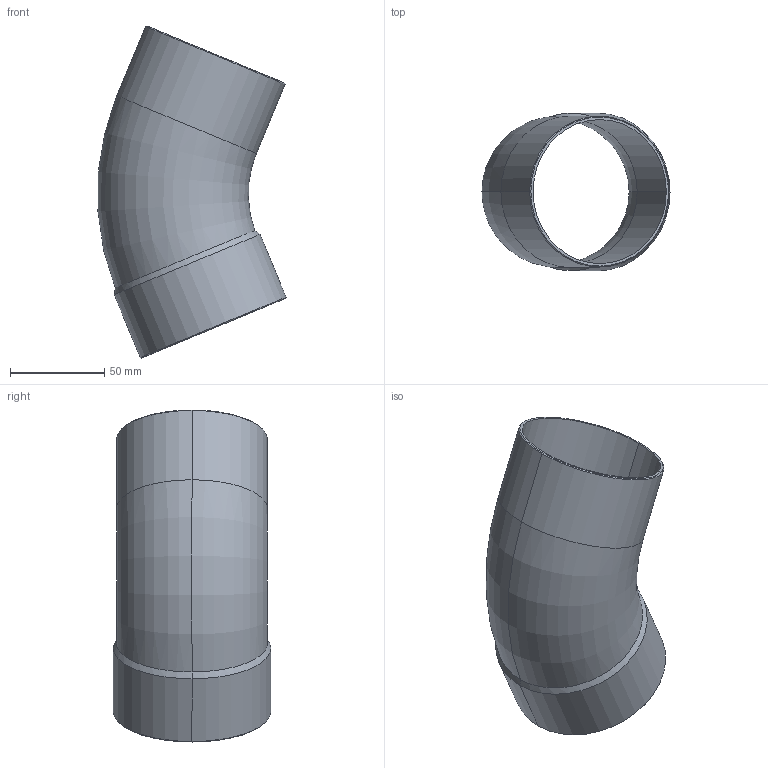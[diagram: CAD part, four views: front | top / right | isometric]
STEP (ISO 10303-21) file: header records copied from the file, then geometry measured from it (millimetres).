
FILE_DESCRIPTION((''),'2;1');
FILE_NAME('P:\Bouwmaten\z-maattekeningen 3D\5000\5040\1504080.stp','2005-10-12T13:36:14',('Kris'),(''),'Autodesk Inventor 8','Autodesk Inventor 8','');
FILE_SCHEMA(('AUTOMOTIVE_DESIGN { 1 0 10303 214 1 1 1 1 }'));
Length unit declared in the file: millimetre
Products named in the file (1): 1504080
Bounding box: 99.67 x 83.6 x 175.97 mm (x, y, z)
Volume: 68491.9 mm3; surface area: 76888.5 mm2
Topology: 1 solids, 1 shells, 24 faces, 50 edges, 28 vertices
Faces by surface type: cone 10, cylinder 8, torus 4, plane 2
Entity records: 729 total; most frequent: CARTESIAN_POINT 179, DIRECTION 124, ORIENTED_EDGE 100, AXIS2_PLACEMENT_3D 53, EDGE_CURVE 50, VERTEX_POINT 28, CIRCLE 28, EDGE_LOOP 26
